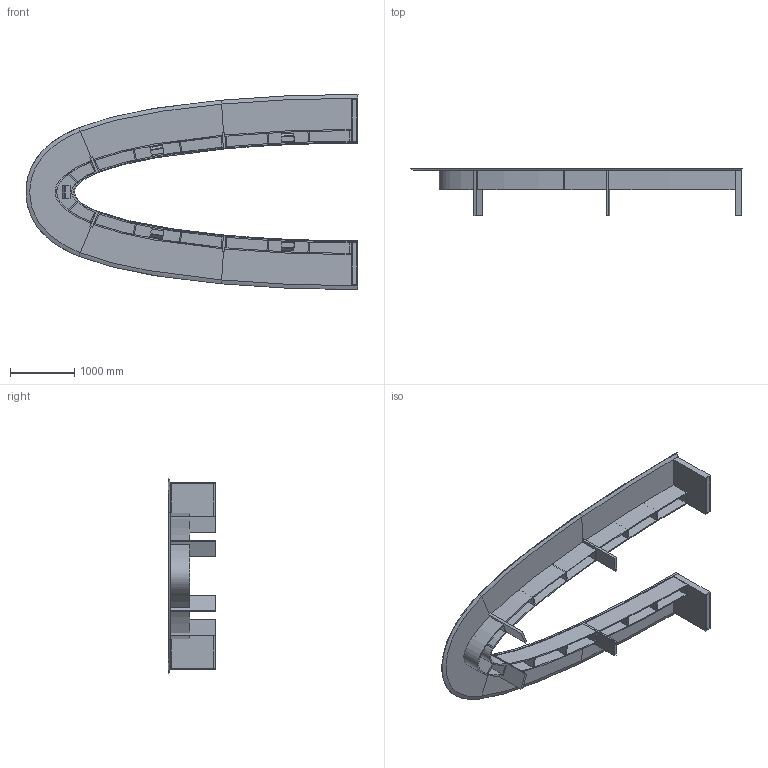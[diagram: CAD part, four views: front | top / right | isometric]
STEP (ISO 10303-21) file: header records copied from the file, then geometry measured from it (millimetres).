
FILE_DESCRIPTION(/* description */ ('','CAx-IF Rec.Pracs.---Representation and Presentation of Product Manufacturing Information (PMI)---4.0---2014-10-13'),/* implementation_level */ '2;1');
FILE_NAME(/* name */ 'TABLE_VIEWLINE 4.stp',/* time_stamp */ '2024-12-07T15:34:22-05:00',/* author */ ('mbowman'),/* organization */ (''),/* preprocessor_version */ 'ST-DEVELOPER v19.2',/* originating_system */ 'Autodesk Inventor 2023',/* authorisation */ '');
FILE_SCHEMA (('AP242_MANAGED_MODEL_BASED_3D_ENGINEERING_MIM_LF { 1 0 10303 442 1 1 4 }'));
Length unit declared in the file: inch
Products named in the file (78): VIEWLINE^TABLE 4_ELIPSE STYLE-FULL ASSEMBLY; VIEWLINE^TABLE 4_ELIPSE STYLE-HEAD TABLE ASSEMBLY; VIEWLINE^TABLE 4_ELIPSE STYLE-HEAD WORKSURFACE; VIEWLINE^TABLE 4_ELIPSE STYLE-HEAD KNEE WALL SEATED; VIEWLINE^TABLE 4_ELIPSE STYLE-HEAD KNEE WALL TOP; VIEWLINE^TABLE 4_ELIPSE STYLE-HEAD KNEE WALL FRONT; VIEWLINE^TABLE 4_ELIPSE STYLE-HEAD KNEE WALL RT END RIB; VIEWLINE^TABLE 4_ELIPSE STYLE-HEAD KNEE WALL RT CTR RIB; VIEWLINE^TABLE 4_ELIPSE STYLE-HEAD KNEE WALL LT CTR RIB; VIEWLINE^TABLE 4_ELIPSE STYLE-HEAD KNEE WALL LT END RIB; BYRNE^ELLORA (4 PLATE); VIEWLINE^TABLE 4_ELIPSE STYLE-LEFT CENTER ASSEMBLY; VIEWLINE^TABLE 4_ELIPSE STYLE-LEFT CENTER WORKSURFACE; VIEWLINE^TABLE 4_ELIPSE STYLE-LEFT CTR KNEE WALL RT END; VIEWLINE^TABLE 4_ELIPSE STYLE-LEFT CTR KNEE WALL SEATED; VIEWLINE^TABLE 4_ELIPSE STYLE-LEFT CTR KNEE WALL TOP; VIEWLINE^TABLE 4_ELIPSE STYLE-LEFT CTR KNEE WALL FRONT; VIEWLINE^TABLE 4_ELIPSE STYLE-LEFT CTR KNEE WALL RT END RIB; VIEWLINE^TABLE 4_ELIPSE STYLE-LEFT CTR KNEE WALL LT END RIB; VIEWLINE^TABLE 4_ELIPSE STYLE-LEFT CTR KNEE WALL RT CTR RIB; VIEWLINE^TABLE 4_ELIPSE STYLE-LEFT CTR KNEE WALL LT CTR RIB; BYRNE^ELLORA (4 PLATE)_1; VIEWLINE^TABLE 4_ELIPSE STYLE-LEFT END ASSEMBLY; VIEWLINE^TABLE 4_ELIPSE STYLE-LEFT END KNEE WALL RT END; VIEWLINE^TABLE 4_ELIPSE STYLE-LEFT END KNEE WALL SEATED; VIEWLINE^TABLE 4_ELIPSE STYLE-LEFT END KNEE WALL TOP; VIEWLINE^TABLE 4_ELIPSE STYLE-LEFT END KNEE WALL FRONT; VIEWLINE^TABLE 4_ELIPSE STYLE-LEFT END BASE BOTTOM; VIEWLINE^TABLE 4_ELIPSE STYLE-LEFT END BASE SUB TOP; VIEWLINE^TABLE 4_ELIPSE STYLE-LEFT END BASE SEATED; VIEWLINE^TABLE 4_ELIPSE STYLE-LEFT END BASE IN END; VIEWLINE^TABLE 4_ELIPSE STYLE-LEFT END BASE FRONT; VIEWLINE^TABLE 4_ELIPSE STYLE-LEFT END BASE OUT END; VIEWLINE^TABLE 4_ELIPSE STYLE-LEFT END WORKSURFACE; VIEWLINE^TABLE 4_ELIPSE STYLE-LEFT END KNEE WALL RT END RIB; VIEWLINE^TABLE 4_ELIPSE STYLE-LEFT END KNEE WALL LT END RIB; VIEWLINE^TABLE 4_ELIPSE STYLE-LEFT END KNEE WALL RT CTR RIB; VIEWLINE^TABLE 4_ELIPSE STYLE-LEFT END KNEE WALL LT CTR RIB; BYRNE^ELLORA (4 PLATE)_2; VIEWLINE^TABLE 4_ELIPSE STYLE-RIGHT CENTER ASSEMBLY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
Assembly tree (121 placements, depth 4):
  VIEWLINE^TABLE 4_ELIPSE STYLE-FULL ASSEMBLY
    VIEWLINE^TABLE 4_ELIPSE STYLE-HEAD TABLE ASSEMBLY
      VIEWLINE^TABLE 4_ELIPSE STYLE-HEAD WORKSURFACE
      VIEWLINE^TABLE 4_ELIPSE STYLE-HEAD KNEE WALL SEATED
      VIEWLINE^TABLE 4_ELIPSE STYLE-HEAD KNEE WALL TOP
      VIEWLINE^TABLE 4_ELIPSE STYLE-HEAD KNEE WALL FRONT
      VIEWLINE^TABLE 4_ELIPSE STYLE-HEAD KNEE WALL RT END RIB
      VIEWLINE^TABLE 4_ELIPSE STYLE-HEAD KNEE WALL RT CTR RIB
      VIEWLINE^TABLE 4_ELIPSE STYLE-HEAD KNEE WALL LT CTR RIB
      VIEWLINE^TABLE 4_ELIPSE STYLE-HEAD KNEE WALL LT END RIB
      BYRNE^ELLORA (4 PLATE)
        BYRNE ELLORA (4 PLATE) GROMMET
        BYRNE ELLORA (4 PLATE) POWER LID
        BYRNE ELLORA (4 PLATE) (NOT CORRECT-VISUAL ONLY)
        BYRNE ELLORA (4 PLATE) LT GROMMET PIN
        BYRNE ELLORA (4 PLATE) LT GROMMET HINGE
        BYRNE ELLORA (4 PLATE) LT DOOR HINGE
        BYRNE ELLORA (4 PLATE) LT DOOR PIN
        BYRNE ELLORA (4 PLATE) RT DOOR PIN
        BYRNE ELLORA (4 PLATE) RT DOOR HINGE
        BYRNE ELLORA (4 PLATE) RT GROMMET HINGE
        BYRNE ELLORA (4 PLATE) RT GROMMET PIN
    VIEWLINE^TABLE 4_ELIPSE STYLE-LEFT CENTER ASSEMBLY
      VIEWLINE^TABLE 4_ELIPSE STYLE-LEFT CENTER WORKSURFACE
      VIEWLINE^TABLE 4_ELIPSE STYLE-LEFT CTR KNEE WALL RT END
      VIEWLINE^TABLE 4_ELIPSE STYLE-LEFT CTR KNEE WALL SEATED
      VIEWLINE^TABLE 4_ELIPSE STYLE-LEFT CTR KNEE WALL TOP
      VIEWLINE^TABLE 4_ELIPSE STYLE-LEFT CTR KNEE WALL FRONT
      VIEWLINE^TABLE 4_ELIPSE STYLE-LEFT CTR KNEE WALL RT END RIB
      VIEWLINE^TABLE 4_ELIPSE STYLE-LEFT CTR KNEE WALL LT END RIB
      VIEWLINE^TABLE 4_ELIPSE STYLE-LEFT CTR KNEE WALL RT CTR RIB
      VIEWLINE^TABLE 4_ELIPSE STYLE-LEFT CTR KNEE WALL LT CTR RIB
      BYRNE^ELLORA (4 PLATE)_1
        BYRNE ELLORA (4 PLATE) GROMMET
        BYRNE ELLORA (4 PLATE) POWER LID
        BYRNE ELLORA (4 PLATE) (NOT CORRECT-VISUAL ONLY)
        BYRNE ELLORA (4 PLATE) LT GROMMET PIN
        BYRNE ELLORA (4 PLATE) LT GROMMET HINGE
        BYRNE ELLORA (4 PLATE) LT DOOR HINGE
        BYRNE ELLORA (4 PLATE) LT DOOR PIN
        BYRNE ELLORA (4 PLATE) RT DOOR PIN
        BYRNE ELLORA (4 PLATE) RT DOOR HINGE
        BYRNE ELLORA (4 PLATE) RT GROMMET HINGE
        BYRNE ELLORA (4 PLATE) RT GROMMET PIN
    VIEWLINE^TABLE 4_ELIPSE STYLE-LEFT END ASSEMBLY
      VIEWLINE^TABLE 4_ELIPSE STYLE-LEFT END KNEE WALL RT END
      VIEWLINE^TABLE 4_ELIPSE STYLE-LEFT END KNEE WALL SEATED
      VIEWLINE^TABLE 4_ELIPSE STYLE-LEFT END KNEE WALL TOP
      VIEWLINE^TABLE 4_ELIPSE STYLE-LEFT END KNEE WALL FRONT
      VIEWLINE^TABLE 4_ELIPSE STYLE-LEFT END BASE BOTTOM
      VIEWLINE^TABLE 4_ELIPSE STYLE-LEFT END BASE SUB TOP
      VIEWLINE^TABLE 4_ELIPSE STYLE-LEFT END BASE SEATED
      VIEWLINE^TABLE 4_ELIPSE STYLE-LEFT END BASE IN END
      VIEWLINE^TABLE 4_ELIPSE STYLE-LEFT END BASE FRONT
      VIEWLINE^TABLE 4_ELIPSE STYLE-LEFT END BASE OUT END
      VIEWLINE^TABLE 4_ELIPSE STYLE-LEFT END WORKSURFACE
      VIEWLINE^TABLE 4_ELIPSE STYLE-LEFT END KNEE WALL RT END RIB
      VIEWLINE^TABLE 4_ELIPSE STYLE-LEFT END KNEE WALL LT END RIB
      VIEWLINE^TABLE 4_ELIPSE STYLE-LEFT END KNEE WALL RT CTR RIB
      VIEWLINE^TABLE 4_ELIPSE STYLE-LEFT END KNEE WALL LT CTR RIB
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Bounding box: 5179.44 x 744.54 x 3048 mm (x, y, z)
Volume: 469607659.5 mm3; surface area: 41879314.2 mm2
Topology: 111 solids, 111 shells, 1556 faces, 3482 edges, 2298 vertices
Faces by surface type: plane 1320, cylinder 157, bspline 79
Full cylindrical faces by diameter (mm): 1.587 x60
Entity records: 32686 total; most frequent: CARTESIAN_POINT 10724, DIRECTION 4625, ORIENTED_EDGE 2684, AXIS2_PLACEMENT_3D 1752, EDGE_CURVE 1342, LINE 1121, VECTOR 1121, VERTEX_POINT 890
